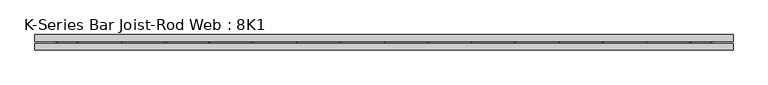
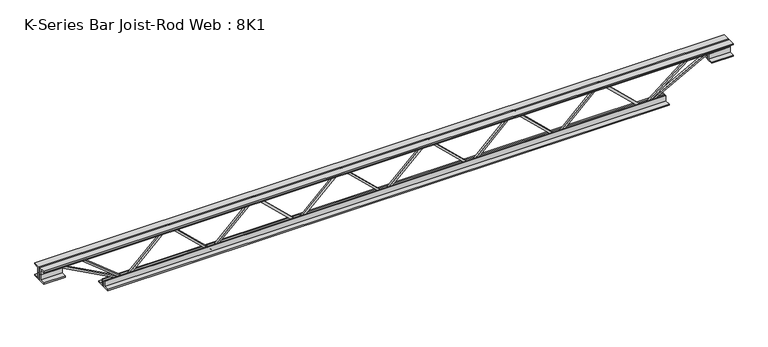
"""IFC4 building model written with IfcOpenShell, lengths in millimetres: beam geometry, K-Series Bar Joist-Rod Web : 8K1."""

from ifc_helpers import new_model, si_unit, frame, origin, place, context, project, spatial, polyline, outline, extrude, source, transform, mapped, element, save


def k_series_bar_joist_rod_web_8k1_5ba47054(model_context):
    return source(origin(), model_context, "Body", "SweptSolid", [
        extrude(outline(polyline([(-90.4875, 411.0474986), (-100.0125, 411.0474986), (-100.0125, 416.133385), (90.4875, 615.3071343), (90.4875, 617.8353616), (-100.0125, 817.0091109), (-100.0125, 822.0949973), (-90.4875, 822.0949973), (-90.4875, 820.8308836), (100.0125, 621.6571343), (100.0125, 611.4853616), (-90.4875, 412.3116123), (-90.4875, 411.0474986)])), frame((0.0, -4.7625, 0.0), z_axis=(0.0, 1.0, 0.0), x_axis=(0.0, 0.0, 1.0)), (0.0, 0.0, 1.0), 9.525),
        extrude(outline(polyline([(-90.4875, 0.0), (-100.0125, 0.0), (-100.0125, 5.0858863), (90.4875, 204.2596356), (90.4875, 206.787863), (-100.0125, 405.9616123), (-100.0125, 411.0474986), (-90.4875, 411.0474986), (-90.4875, 409.783385), (100.0125, 210.6096356), (100.0125, 200.437863), (-90.4875, 1.2641137), (-90.4875, 0.0)])), frame((0.0, -4.7625, 0.0), z_axis=(0.0, 1.0, 0.0), x_axis=(0.0, 0.0, 1.0)), (0.0, 0.0, 1.0), 9.525),
        extrude(outline(polyline([(-90.4875, -411.0474986), (-100.0125, -411.0474986), (-100.0125, -405.9616123), (90.4875, -206.787863), (90.4875, -204.2596356), (-100.0125, -5.0858863), (-100.0125, 0.0), (-90.4875, 0.0), (-90.4875, -1.2641137), (100.0125, -200.437863), (100.0125, -210.6096356), (-90.4875, -409.783385), (-90.4875, -411.0474986)])), frame((0.0, -4.7625, 0.0), z_axis=(0.0, 1.0, 0.0), x_axis=(0.0, 0.0, 1.0)), (0.0, 0.0, 1.0), 9.525),
        extrude(outline(polyline([(-90.4875, -822.0949973), (-100.0125, -822.0949973), (-100.0125, -817.0091109), (90.4875, -617.8353616), (90.4875, -615.3071343), (-100.0125, -416.133385), (-100.0125, -411.0474986), (-90.4875, -411.0474986), (-90.4875, -412.3116123), (100.0125, -611.4853616), (100.0125, -621.6571343), (-90.4875, -820.8308836), (-90.4875, -822.0949973)])), frame((0.0, -4.7625, 0.0), z_axis=(0.0, 1.0, 0.0), x_axis=(0.0, 0.0, 1.0)), (0.0, 0.0, 1.0), 9.525),
        extrude(outline(polyline([(-90.4875, 822.0949973), (-100.0125, 822.0949973), (-100.0125, 827.1808836), (90.4875, 1026.3546329), (90.4875, 1028.8828602), (-100.0125, 1228.0566096), (-100.0125, 1233.1424959), (-90.4875, 1233.1424959), (-90.4875, 1231.8783822), (100.0125, 1032.7046329), (100.0125, 1022.5328602), (-90.4875, 823.3591109), (-90.4875, 822.0949973)])), frame((0.0, -4.7625, 0.0), z_axis=(0.0, 1.0, 0.0), x_axis=(0.0, 0.0, 1.0)), (0.0, 0.0, 1.0), 9.525),
        extrude(outline(polyline([(-90.4875, -1233.1424959), (-100.0125, -1233.1424959), (-100.0125, -1228.0566096), (90.4875, -1028.8828602), (90.4875, -1026.3546329), (-100.0125, -827.1808836), (-100.0125, -822.0949973), (-90.4875, -822.0949973), (-90.4875, -823.3591109), (100.0125, -1022.5328602), (100.0125, -1032.7046329), (-90.4875, -1231.8783822), (-90.4875, -1233.1424959)])), frame((0.0, -4.7625, 0.0), z_axis=(0.0, 1.0, 0.0), x_axis=(0.0, 0.0, 1.0)), (0.0, 0.0, 1.0), 9.525),
        extrude(outline(polyline([(4.7625, 101.6), (36.5125, 101.6), (36.5125, 95.25), (11.1125, 95.25), (11.1125, 69.85), (4.7625, 69.85), (4.7625, 101.6)])), frame((-1639.5424959, 0.0, 0.0), z_axis=(1.0, 0.0, 0.0), x_axis=(0.0, 1.0, 0.0)), (0.0, 0.0, 1.0), 3279.0849918),
        extrude(outline(polyline([(-4.7625, 101.6), (-4.7625, 69.85), (-11.1125, 69.85), (-11.1125, 95.25), (-36.5125, 95.25), (-36.5125, 101.6), (-4.7625, 101.6)])), frame((-1639.5424959, 0.0, 0.0), z_axis=(1.0, 0.0, 0.0), x_axis=(0.0, 1.0, 0.0)), (0.0, 0.0, 1.0), 3279.0849918),
        extrude(outline(polyline([(-4.7625, 38.1), (-36.5125, 38.1), (-36.5125, 44.45), (-11.1125, 44.45), (-11.1125, 69.85), (-4.7625, 69.85), (-4.7625, 38.1)])), frame((-1639.5424959, 0.0, 0.0), z_axis=(1.0, 0.0, 0.0), x_axis=(0.0, 1.0, 0.0)), (0.0, 0.0, 1.0), 101.6),
        extrude(outline(polyline([(36.5125, 38.1), (4.7625, 38.1), (4.7625, 69.85), (11.1125, 69.85), (11.1125, 44.45), (36.5125, 44.45), (36.5125, 38.1)])), frame((-1639.5424959, 0.0, 0.0), z_axis=(1.0, 0.0, 0.0), x_axis=(0.0, 1.0, 0.0)), (0.0, 0.0, 1.0), 101.6),
        extrude(outline(polyline([(4.7625, 38.1), (4.7625, 69.85), (11.1125, 69.85), (11.1125, 44.45), (36.5125, 44.45), (36.5125, 38.1), (4.7625, 38.1)])), frame((1537.9424959, 0.0, 0.0), z_axis=(1.0, 0.0, 0.0), x_axis=(0.0, 1.0, 0.0)), (0.0, 0.0, 1.0), 101.6),
        extrude(outline(polyline([(-4.7625, 38.1), (-36.5125, 38.1), (-36.5125, 44.45), (-11.1125, 44.45), (-11.1125, 69.85), (-4.7625, 69.85), (-4.7625, 38.1)])), frame((1537.9424959, 0.0, 0.0), z_axis=(1.0, 0.0, 0.0), x_axis=(0.0, 1.0, 0.0)), (0.0, 0.0, 1.0), 101.6),
        extrude(outline(polyline([(4.7625, -101.6), (4.7625, -69.85), (11.1125, -69.85), (11.1125, -95.25), (36.5125, -95.25), (36.5125, -101.6), (4.7625, -101.6)])), frame((-1334.7424959, 0.0, 0.0), z_axis=(1.0, 0.0, 0.0), x_axis=(0.0, 1.0, 0.0)), (0.0, 0.0, 1.0), 2669.4849918),
        extrude(outline(polyline([(-4.7625, -101.6), (-36.5125, -101.6), (-36.5125, -95.25), (-11.1125, -95.25), (-11.1125, -69.85), (-4.7625, -69.85), (-4.7625, -101.6)])), frame((-1334.7424959, 0.0, 0.0), z_axis=(1.0, 0.0, 0.0), x_axis=(0.0, 1.0, 0.0)), (0.0, 0.0, 1.0), 2669.4849918),
        extrude(outline(polyline([(0.0, -9.525), (0.0, 0.0), (346.6425392, 0.0), (346.6425392, -9.525), (0.0, -9.525)])), frame((-1540.2107944, 4.7625, 65.662372), z_axis=(0.47628314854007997, 0.0, 0.8792919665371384), x_axis=(0.8792919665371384, 0.0, -0.47628314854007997)), (0.0, 0.0, 1.0), 9.525),
        extrude(outline(polyline([(0.0, -9.525), (0.0, 0.0), (263.6247741, 0.0), (263.6247741, -9.525), (0.0, -9.525)])), frame((-1441.6488509, 4.7625, 66.1371211), z_axis=(0.6262689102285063, 0.0, 0.7796071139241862), x_axis=(0.7796071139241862, 0.0, -0.6262689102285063)), (0.0, 0.0, 1.0), 9.525),
        extrude(outline(polyline([(0.0, -9.525), (0.0, 0.0), (346.6425392, 0.0), (346.6425392, -9.525), (0.0, -9.525)])), frame((1540.2107944, -4.7625, 65.662372), z_axis=(-0.47628314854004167, 0.0, 0.8792919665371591), x_axis=(-0.8792919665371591, 0.0, -0.47628314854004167)), (0.0, 0.0, 1.0), 9.525),
        extrude(outline(polyline([(0.0, -9.525), (0.0, 0.0), (263.6247741, 0.0), (263.6247741, -9.525), (0.0, -9.525)])), frame((1441.6488509, -4.7625, 66.1371211), z_axis=(-0.6262689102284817, 0.0, 0.779607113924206), x_axis=(-0.779607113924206, 0.0, -0.6262689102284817)), (0.0, 0.0, 1.0), 9.525),
    ])


if __name__ == "__main__":
    model = new_model("IFC4")
    model_context = context("Model", 3, world=origin())
    ifc_project = project(units=[si_unit("LENGTHUNIT", "METRE", prefix="MILLI")], contexts=[model_context])
    site = spatial("IfcSite", under=ifc_project)
    building = spatial("IfcBuilding", under=site)
    placement = place(None, origin())
    k_series_bar_joist_rod_web_8k1_shape = k_series_bar_joist_rod_web_8k1_5ba47054(model_context)
    element("IfcBeam", 1, ObjectType="K-Series Bar Joist-Rod Web : 8K1", at=placement, inside=building, context=model_context, shape_type="MappedRepresentation", body=[
        mapped(k_series_bar_joist_rod_web_8k1_shape, transform((0.0, 0.0, 0.0), x_axis=(1.0, 0.0, 0.0), y_axis=(0.0, 1.0, 0.0), z_axis=(0.0, 0.0, 1.0))),
    ])
    save(model, "model.ifc")
